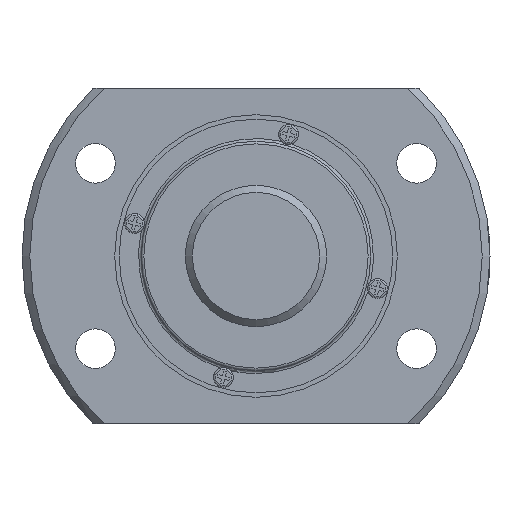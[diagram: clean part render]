
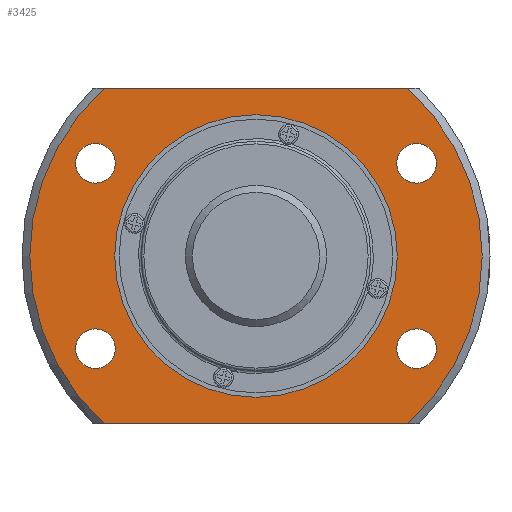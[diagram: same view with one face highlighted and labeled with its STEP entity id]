
A CAD part, left-side view. The second image highlights one B-rep face of the part: STEP entity #3425.
In plain terms, the highlighted planar face has unit normal (-1, 0, 0).
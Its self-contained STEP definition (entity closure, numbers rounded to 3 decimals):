
#25=LINE('',#5214,#353);
#26=LINE('',#5215,#354);
#353=VECTOR('',#4099,1000.);
#354=VECTOR('',#4100,1000.);
#729=PLANE('',#3686);
#913=ORIENTED_EDGE('',*,*,#1877,.T.);
#914=ORIENTED_EDGE('',*,*,#1878,.T.);
#915=ORIENTED_EDGE('',*,*,#1879,.T.);
#916=ORIENTED_EDGE('',*,*,#1880,.T.);
#917=ORIENTED_EDGE('',*,*,#1881,.T.);
#918=ORIENTED_EDGE('',*,*,#1872,.F.);
#919=ORIENTED_EDGE('',*,*,#1882,.T.);
#920=ORIENTED_EDGE('',*,*,#1875,.F.);
#921=ORIENTED_EDGE('',*,*,#1883,.T.);
#1872=EDGE_CURVE('',#2354,#2355,#2683,.T.);
#1875=EDGE_CURVE('',#2356,#2357,#2684,.T.);
#1877=EDGE_CURVE('',#2358,#2358,#2685,.T.);
#1878=EDGE_CURVE('',#2359,#2359,#2686,.T.);
#1879=EDGE_CURVE('',#2360,#2360,#2687,.T.);
#1880=EDGE_CURVE('',#2361,#2361,#2688,.T.);
#1881=EDGE_CURVE('',#2362,#2362,#2689,.T.);
#1882=EDGE_CURVE('',#2354,#2357,#25,.T.);
#1883=EDGE_CURVE('',#2356,#2355,#26,.T.);
#2354=VERTEX_POINT('',#5184);
#2355=VERTEX_POINT('',#5186);
#2356=VERTEX_POINT('',#5196);
#2357=VERTEX_POINT('',#5198);
#2358=VERTEX_POINT('',#5205);
#2359=VERTEX_POINT('',#5207);
#2360=VERTEX_POINT('',#5209);
#2361=VERTEX_POINT('',#5211);
#2362=VERTEX_POINT('',#5213);
#2683=CIRCLE('',#3683,25.617);
#2684=CIRCLE('',#3685,25.617);
#2685=CIRCLE('',#3687,16.);
#2686=CIRCLE('',#3688,2.25);
#2687=CIRCLE('',#3689,2.25);
#2688=CIRCLE('',#3690,2.25);
#2689=CIRCLE('',#3691,2.25);
#2825=EDGE_LOOP('',(#913));
#2826=EDGE_LOOP('',(#914));
#2827=EDGE_LOOP('',(#915));
#2828=EDGE_LOOP('',(#916));
#2829=EDGE_LOOP('',(#917));
#2830=EDGE_LOOP('',(#918,#919,#920,#921));
#3101=FACE_BOUND('',#2825,.T.);
#3102=FACE_BOUND('',#2826,.T.);
#3103=FACE_BOUND('',#2827,.T.);
#3104=FACE_BOUND('',#2828,.T.);
#3105=FACE_BOUND('',#2829,.T.);
#3106=FACE_BOUND('',#2830,.T.);
#3425=ADVANCED_FACE('',(#3101,#3102,#3103,#3104,#3105,#3106),#729,.T.);
#3683=AXIS2_PLACEMENT_3D('',#5185,#4081,#4082);
#3685=AXIS2_PLACEMENT_3D('',#5197,#4085,#4086);
#3686=AXIS2_PLACEMENT_3D('',#5203,#4087,#4088);
#3687=AXIS2_PLACEMENT_3D('',#5204,#4089,#4090);
#3688=AXIS2_PLACEMENT_3D('',#5206,#4091,#4092);
#3689=AXIS2_PLACEMENT_3D('',#5208,#4093,#4094);
#3690=AXIS2_PLACEMENT_3D('',#5210,#4095,#4096);
#3691=AXIS2_PLACEMENT_3D('',#5212,#4097,#4098);
#4081=DIRECTION('',(1.,0.,0.));
#4082=DIRECTION('',(0.,0.,-1.));
#4085=DIRECTION('',(1.,0.,0.));
#4086=DIRECTION('',(0.,0.,-1.));
#4087=DIRECTION('',(-1.,0.,0.));
#4088=DIRECTION('',(0.,0.,1.));
#4089=DIRECTION('',(1.,0.,0.));
#4090=DIRECTION('',(0.,0.,-1.));
#4091=DIRECTION('',(1.,0.,0.));
#4092=DIRECTION('',(0.,0.,-1.));
#4093=DIRECTION('',(1.,0.,0.));
#4094=DIRECTION('',(0.,0.,-1.));
#4095=DIRECTION('',(1.,0.,0.));
#4096=DIRECTION('',(0.,0.,-1.));
#4097=DIRECTION('',(1.,0.,0.));
#4098=DIRECTION('',(0.,0.,-1.));
#4099=DIRECTION('',(0.,1.,0.));
#4100=DIRECTION('',(0.,-1.,0.));
#5184=CARTESIAN_POINT('',(6.5,-17.182,19.));
#5185=CARTESIAN_POINT('',(6.5,0.,0.));
#5186=CARTESIAN_POINT('',(6.5,-17.182,-19.));
#5196=CARTESIAN_POINT('',(6.5,17.182,-19.));
#5197=CARTESIAN_POINT('',(6.5,0.,0.));
#5198=CARTESIAN_POINT('',(6.5,17.182,19.));
#5203=CARTESIAN_POINT('',(6.5,25.617,0.));
#5204=CARTESIAN_POINT('',(6.5,0.,0.));
#5205=CARTESIAN_POINT('',(6.5,0.,-16.));
#5206=CARTESIAN_POINT('',(6.5,-18.187,10.5));
#5207=CARTESIAN_POINT('',(6.5,-18.187,8.25));
#5208=CARTESIAN_POINT('',(6.5,18.187,-10.5));
#5209=CARTESIAN_POINT('',(6.5,18.187,-12.75));
#5210=CARTESIAN_POINT('',(6.5,-18.187,-10.5));
#5211=CARTESIAN_POINT('',(6.5,-18.187,-12.75));
#5212=CARTESIAN_POINT('',(6.5,18.187,10.5));
#5213=CARTESIAN_POINT('',(6.5,18.187,8.25));
#5214=CARTESIAN_POINT('',(6.5,25.617,19.));
#5215=CARTESIAN_POINT('',(6.5,25.617,-19.));
